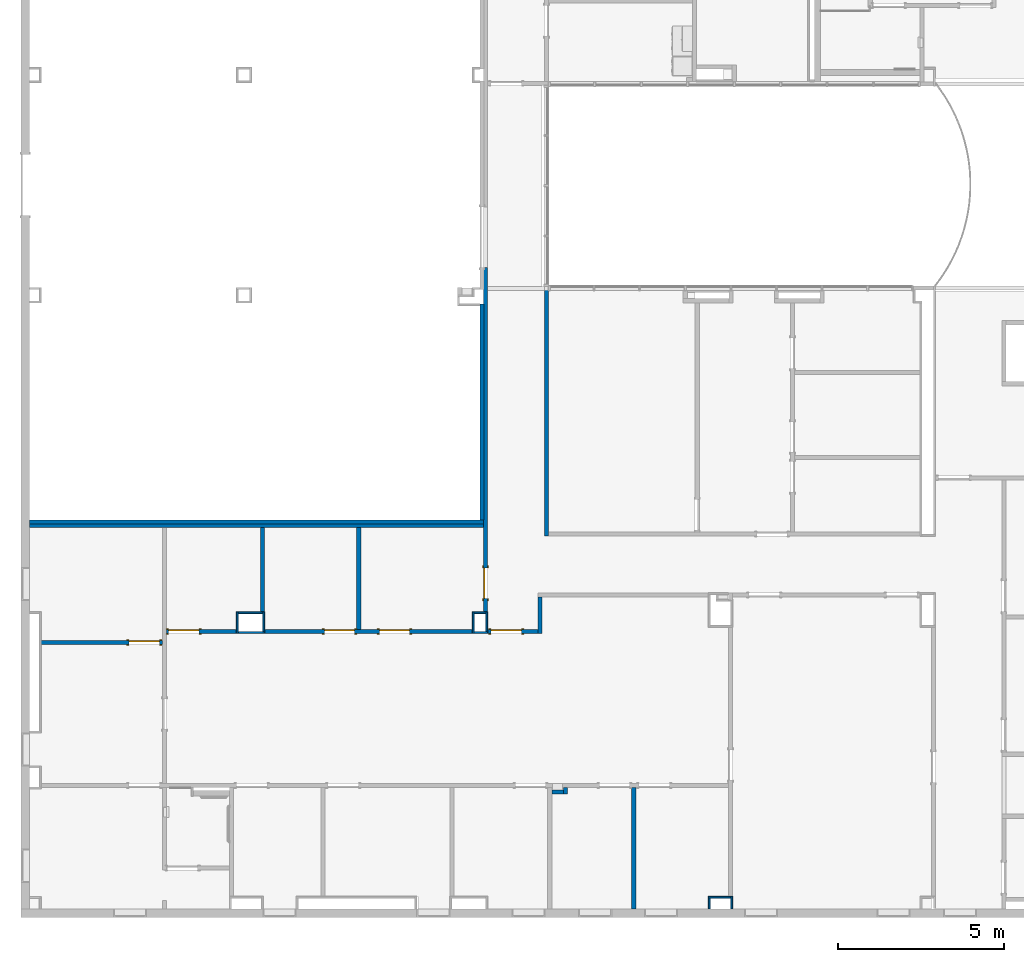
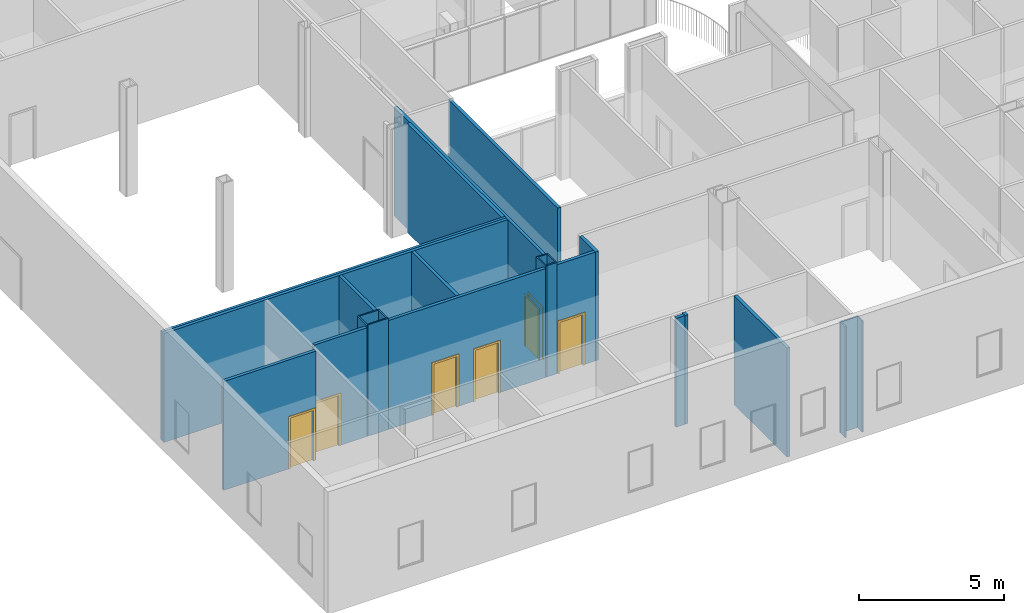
# One storey, part 7 of 47: 26 walls, 6 doors, 6 openings.
"""IFC2X3 building model written with IfcOpenShell, lengths in metres."""

from ifc_helpers import new_model, entity, si_unit, converted_unit, frame, frame_2d, origin, origin_2d_with_axis, place, context, project, spatial, polyline, rectangle, outline, extrude, source, transform, mapped, material, layer, layer_set, layer_usage, type_object, type_shapes, element, fill, save


model = new_model("IFC2X3")

# Units and contexts
model_context = context("Model", 3, precision=1e-09, world=origin())
plan_context = context("Plan", 3, precision=1e-09, world=origin())
ifc_project = project(units=[si_unit("LENGTHUNIT", "METRE"), si_unit("AREAUNIT", "SQUARE_METRE"), si_unit("VOLUMEUNIT", "CUBIC_METRE"), converted_unit("PLANEANGLEUNIT", "DEGREE", entity("IfcRatioMeasure", 0.01745329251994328), si_unit("PLANEANGLEUNIT", "RADIAN"), dimensions=[0, 0, 0, 0, 0, 0, 0]), si_unit("TIMEUNIT", "SECOND")], contexts=[model_context, plan_context])

# Site, building, storey
site_placement = place(None, origin())
site = spatial("IfcSite", under=ifc_project, at=site_placement, Name="Default", CompositionType="ELEMENT")
building_placement = place(site_placement, origin())
building = spatial("IfcBuilding", under=site, at=building_placement, CompositionType="ELEMENT")
storey_placement = place(building_placement, frame((0.0, 0.0, 4.570000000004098)))
storey = spatial("IfcBuildingStorey", under=building, at=storey_placement, Name="Second Floor", CompositionType="ELEMENT", Elevation=4.570000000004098)

# Walls
ifc_material_1 = material(Name="Plasterboard")
ifc_layer_1 = layer(ifc_material_1, 0.016)
ifc_material_2 = material(Name="Metal - Stud Layer")
ifc_layer_2 = layer(ifc_material_2, 0.092)
ifc_layer_3 = layer(ifc_material_1, 0.016)
ifc_layer_set_1 = layer_set([ifc_layer_1, ifc_layer_2, ifc_layer_3], Name="Basic Wall:Interior - Partition (92mm Stud)")
ifc_layer_usage_1 = layer_usage(ifc_layer_set_1, "AXIS2", "NEGATIVE", 0.062)
wall_1_placement = place(storey_placement, frame((-31.38500000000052, 13.44743871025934, 0.0)))
element("IfcWallStandardCase", 1, at=wall_1_placement, inside=storey, material=ifc_layer_usage_1, Name="Basic Wall:Interior - Partition (92mm Stud)", ObjectType="Basic Wall:Interior - Partition (92mm Stud)", context=model_context, shape_type="SweptSolid", body=[
    extrude(rectangle(XDim=0.3500000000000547, YDim=0.1240000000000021, at=frame_2d((0.1750000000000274, 0.0), x_axis=(-1.0, 0.0))), origin(), (0.0, 0.0, 1.0), 4.577999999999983),
])
ifc_layer_usage_2 = layer_usage(ifc_layer_set_1, "AXIS2", "NEGATIVE", 0.062)
wall_2_placement = place(storey_placement, frame((-30.97300000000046, 13.38543871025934, 0.0), z_axis=(0.0, 0.0, 1.0), x_axis=(0.0, 1.0, 0.0)))
element("IfcWallStandardCase", 2, at=wall_2_placement, inside=storey, material=ifc_layer_usage_2, Name="Basic Wall:Interior - Partition (92mm Stud)", ObjectType="Basic Wall:Interior - Partition (92mm Stud)", context=model_context, shape_type="SweptSolid", body=[
    extrude(rectangle(XDim=0.194999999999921, YDim=0.1239999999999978, at=frame_2d((0.09749999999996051, 0.0), x_axis=(-1.0, 0.0))), origin(), (0.0, 0.0, 1.0), 4.577999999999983),
])
ifc_layer_usage_3 = layer_usage(ifc_layer_set_1, "AXIS2", "NEGATIVE", 0.062)
wall_3_placement = place(storey_placement, frame((-28.91700000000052, 13.58043871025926, 0.0), z_axis=(0.0, 0.0, 1.0), x_axis=(0.0, -1.0, 0.0)))
element("IfcWallStandardCase", 3, at=wall_3_placement, inside=storey, material=ifc_layer_usage_3, Name="Basic Wall:Interior - Partition (92mm Stud)", ObjectType="Basic Wall:Interior - Partition (92mm Stud)", context=model_context, shape_type="SweptSolid", body=[
    extrude(rectangle(XDim=3.653438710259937, YDim=0.1239999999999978, at=frame_2d((1.826719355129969, 0.0), x_axis=(-1.0, 0.0))), origin(), (0.0, 0.0, 1.0), 4.577999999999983),
])

# Wall, opening, door
ifc_layer_usage_4 = layer_usage(ifc_layer_set_1, "AXIS2", "NEGATIVE", 0.062)
wall_4_placement = place(storey_placement, frame((-46.77000000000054, 17.95243871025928, 0.0)))
wall_4 = element("IfcWallStandardCase", 4, at=wall_4_placement, inside=storey, material=ifc_layer_usage_4, Name="Basic Wall:Interior - Partition (92mm Stud)", ObjectType="Basic Wall:Interior - Partition (92mm Stud)", context=model_context, shape_type="SweptSolid", body=[
    extrude(rectangle(XDim=3.660000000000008, YDim=0.1240000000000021, at=frame_2d((1.830000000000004, 0.0), x_axis=(-1.0, 0.0))), origin(), (0.0, 0.0, 1.0), 4.577999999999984),
])
opening_1_placement = place(wall_4_placement, frame((2.645000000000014, -0.06200000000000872, 0.0)))
opening_1 = element("IfcOpeningElement", 5, at=opening_1_placement, cuts=wall_4, Name="M_Single-Flush:0915 x 2134mm:0915 x 2134mm:1", ObjectType="Opening", context=model_context, shape_type="SweptSolid", body=[
    extrude(rectangle(XDim=0.9149999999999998, YDim=2.134, at=frame_2d((1.067, 0.4575), x_axis=(0.0, 1.0))), frame((0.0, 0.0, 0.0), z_axis=(0.0, 1.0, 0.0), x_axis=(0.0, 0.0, 1.0)), (0.0, 0.0, 1.0), 0.124),
])
door_style_1 = type_object("IfcDoorStyle", Name="0915 x 2134mm", ConstructionType="NOTDEFINED", OperationType="SINGLE_SWING_RIGHT", ParameterTakesPrecedence=False, Sizeable=False)
shared_shape_1 = source(origin(), model_context, "Body", "SweptSolid", [
    extrude(outline(polyline([(-0.5335, -1.123999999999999), (0.5334999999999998, -1.123999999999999), (0.5334999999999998, 1.086), (0.4574999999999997, 1.086), (0.4574999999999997, -1.048000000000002), (-0.4574999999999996, -1.048000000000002), (-0.4574999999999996, 1.086), (-0.5335, 1.086), (-0.5335, -1.123999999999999)])), frame((0.4575000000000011, 0.1239999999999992, 1.086), z_axis=(0.0, 1.0, 0.0), x_axis=(1.0, 0.0, 0.0)), (0.0, 0.0, 1.0), 0.02499999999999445),
    extrude(outline(polyline([(-1.123999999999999, -0.5334999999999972), (1.085999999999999, -0.5334999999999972), (1.085999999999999, -0.4575000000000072), (-1.048, -0.4575000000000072), (-1.048, 0.4575000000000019), (1.085999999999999, 0.4575000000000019), (1.085999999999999, 0.5335000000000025), (-1.123999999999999, 0.5335000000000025), (-1.123999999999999, -0.5334999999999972)])), frame((0.4575000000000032, -0.02500000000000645, 1.085999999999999), z_axis=(0.0, 1.0, 0.0), x_axis=(0.0, 0.0, -1.0)), (0.0, 0.0, 1.0), 0.02500000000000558),
    extrude(rectangle(XDim=0.051, YDim=0.9149999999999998, at=origin_2d_with_axis()), frame((0.4575000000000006, 0.09849999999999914, 0.0), z_axis=(0.0, 0.0, 1.0), x_axis=(0.0, 1.0, 0.0)), (0.0, 0.0, 1.0), 2.133999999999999),
])
type_shapes(door_style_1, [shared_shape_1])
door_1_placement = place(opening_1_placement, origin())
door_1 = element("IfcDoor", 6, at=door_1_placement, inside=storey, type_object=door_style_1, Name="M_Single-Flush:0915 x 2134mm:0915 x 2134mm", ObjectType="0915 x 2134mm", OverallHeight=2.134, OverallWidth=0.9149999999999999, context=model_context, shape_type="MappedRepresentation", body=[
    mapped(shared_shape_1, transform((0.0, 0.0, 0.0), scale=1.0)),
])
fill(opening_1, door_1)

# Walls
ifc_layer_usage_5 = layer_usage(ifc_layer_set_1, "AXIS2", "NEGATIVE", 0.062)
wall_5_placement = place(storey_placement, frame((-47.11300000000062, 21.58243871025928, 0.0)))
element("IfcWallStandardCase", 7, at=wall_5_placement, inside=storey, material=ifc_layer_usage_5, Name="Basic Wall:Interior - Partition (92mm Stud)", ObjectType="Basic Wall:Interior - Partition (92mm Stud)", context=model_context, shape_type="SweptSolid", body=[
    extrude(rectangle(XDim=13.68700000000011, YDim=0.1239999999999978, at=frame_2d((6.843500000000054, 0.0), x_axis=(-1.0, 0.0))), origin(), (0.0, 0.0, 1.0), 4.577999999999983),
])
ifc_layer_usage_6 = layer_usage(ifc_layer_set_1, "AXIS2", "NEGATIVE", 0.062)
wall_6_placement = place(storey_placement, frame((-33.48800000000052, 21.64443871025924, 0.0), z_axis=(0.0, 0.0, 1.0), x_axis=(0.0, 1.0, 0.0)))
element("IfcWallStandardCase", 8, at=wall_6_placement, inside=storey, material=ifc_layer_usage_6, Name="Basic Wall:Interior - Partition (92mm Stud)", ObjectType="Basic Wall:Interior - Partition (92mm Stud)", context=model_context, shape_type="SweptSolid", body=[
    extrude(rectangle(XDim=6.509000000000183, YDim=0.1239999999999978, at=frame_2d((3.254500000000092, 0.0), x_axis=(-1.0, 0.0))), origin(), (0.0, 0.0, 1.0), 4.577999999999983),
])

# Wall, opening, door
ifc_layer_usage_7 = layer_usage(ifc_layer_set_1, "AXIS2", "NEGATIVE", 0.062)
wall_7_placement = place(storey_placement, frame((-33.3820000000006, 29.24387433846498, 0.0), z_axis=(0.0, 0.0, 1.0), x_axis=(0.0, -1.0, 0.0)))
wall_7 = element("IfcWallStandardCase", 9, at=wall_7_placement, inside=storey, material=ifc_layer_usage_7, Name="Basic Wall:Interior - Partition (92mm Stud)", ObjectType="Basic Wall:Interior - Partition (92mm Stud)", context=model_context, shape_type="SweptSolid", body=[
    extrude(rectangle(XDim=10.36943562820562, YDim=0.1239999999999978, at=frame_2d((5.18471781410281, 0.0), x_axis=(-1.0, 0.0))), origin(), (0.0, 0.0, 1.0), 4.577999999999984),
])
opening_2_placement = place(wall_7_placement, frame((9.969435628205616, 0.06199999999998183, 0.0)))
opening_2 = element("IfcOpeningElement", 10, at=opening_2_placement, cuts=wall_7, Name="M_Single-Flush:0915 x 2134mm:0915 x 2134mm:1", ObjectType="Opening", context=model_context, shape_type="SweptSolid", body=[
    extrude(rectangle(XDim=0.9149999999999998, YDim=2.134, at=frame_2d((1.067, 0.4574999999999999), x_axis=(0.0, -1.0))), frame((0.0, 0.0, 0.0), z_axis=(0.0, -1.0, 0.0), x_axis=(0.0, 0.0, 1.0)), (0.0, 0.0, 1.0), 0.124),
])
door_style_2 = type_object("IfcDoorStyle", Name="0915 x 2134mm", ConstructionType="NOTDEFINED", OperationType="SINGLE_SWING_LEFT", ParameterTakesPrecedence=False, Sizeable=False)
shared_shape_2 = source(origin(), model_context, "Body", "SweptSolid", [
    extrude(outline(polyline([(-0.5335, -1.123999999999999), (0.5334999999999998, -1.123999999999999), (0.5334999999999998, 1.086), (0.4574999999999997, 1.086), (0.4574999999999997, -1.048000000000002), (-0.4574999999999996, -1.048000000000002), (-0.4574999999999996, 1.086), (-0.5335, 1.086), (-0.5335, -1.123999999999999)])), frame((0.4575000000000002, 0.1489999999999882, 1.086), z_axis=(0.0, -1.0, 0.0), x_axis=(-1.0, 0.0, 0.0)), (0.0, 0.0, 1.0), 0.02499999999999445),
    extrude(outline(polyline([(-1.123999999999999, -0.5334999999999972), (1.085999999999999, -0.5334999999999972), (1.085999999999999, -0.4575000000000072), (-1.048, -0.4575000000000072), (-1.048, 0.4575000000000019), (1.085999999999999, 0.4575000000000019), (1.085999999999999, 0.5335000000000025), (-1.123999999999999, 0.5335000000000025), (-1.123999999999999, -0.5334999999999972)])), frame((0.4574999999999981, 0.0, 1.085999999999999), z_axis=(0.0, -1.0, 0.0), x_axis=(0.0, 0.0, -1.0)), (0.0, 0.0, 1.0), 0.02500000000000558),
    extrude(rectangle(XDim=0.9149999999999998, YDim=0.051, at=origin_2d_with_axis()), frame((0.4575000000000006, 0.09849999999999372, 0.0)), (0.0, 0.0, 1.0), 2.133999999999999),
])
type_shapes(door_style_2, [shared_shape_2])
door_2_placement = place(opening_2_placement, frame((0.0, 0.0, 0.0), z_axis=(0.0, 0.0, 1.0), x_axis=(-1.0, 0.0, 0.0)))
door_2 = element("IfcDoor", 11, at=door_2_placement, inside=storey, type_object=door_style_2, Name="M_Single-Flush:0915 x 2134mm:0915 x 2134mm", ObjectType="0915 x 2134mm", OverallHeight=2.134, OverallWidth=0.9149999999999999, context=model_context, shape_type="MappedRepresentation", body=[
    mapped(shared_shape_2, transform((0.0, 0.0, 0.0), scale=1.0)),
])
fill(opening_2, door_2)

# Wall
ifc_layer_usage_8 = layer_usage(ifc_layer_set_1, "AXIS2", "NEGATIVE", 0.062)
wall_8_placement = place(storey_placement, frame((-31.73800000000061, 18.22443871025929, 0.0), z_axis=(0.0, 0.0, 1.0), x_axis=(0.0, 1.0, 0.0)))
element("IfcWallStandardCase", 12, at=wall_8_placement, inside=storey, material=ifc_layer_usage_8, Name="Basic Wall:Interior - Partition (92mm Stud)", ObjectType="Basic Wall:Interior - Partition (92mm Stud)", context=model_context, shape_type="SweptSolid", body=[
    extrude(rectangle(XDim=1.09600000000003, YDim=0.1239999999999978, at=frame_2d((0.5480000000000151, 0.0), x_axis=(-1.0, 0.0))), origin(), (0.0, 0.0, 1.0), 4.577999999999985),
])

# Wall, opening, door
ifc_layer_usage_9 = layer_usage(ifc_layer_set_1, "AXIS2", "NEGATIVE", 0.062)
wall_9_placement = place(storey_placement, frame((-31.80000000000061, 18.28643871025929, 0.0), z_axis=(0.0, 0.0, 1.0), x_axis=(-1.0, 0.0, 0.0)))
wall_9 = element("IfcWallStandardCase", 13, at=wall_9_placement, inside=storey, material=ifc_layer_usage_9, Name="Basic Wall:Interior - Partition (92mm Stud)", ObjectType="Basic Wall:Interior - Partition (92mm Stud)", context=model_context, shape_type="SweptSolid", body=[
    extrude(rectangle(XDim=1.520000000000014, YDim=0.1240000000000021, at=frame_2d((0.760000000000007, 0.0), x_axis=(-1.0, 0.0))), origin(), (0.0, 0.0, 1.0), 4.577999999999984),
])
opening_3_placement = place(wall_9_placement, frame((1.42000000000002, 0.06199999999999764, 0.0)))
opening_3 = element("IfcOpeningElement", 14, at=opening_3_placement, cuts=wall_9, Name="M_Single-Flush:0915 x 2134mm:0915 x 2134mm:1", ObjectType="Opening", context=model_context, shape_type="SweptSolid", body=[
    extrude(rectangle(XDim=0.9149999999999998, YDim=2.134, at=frame_2d((1.067, 0.4575000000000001), x_axis=(0.0, -1.0))), frame((0.0, 0.0, 0.0), z_axis=(0.0, -1.0, 0.0), x_axis=(0.0, 0.0, 1.0)), (0.0, 0.0, 1.0), 0.124),
])
door_3_placement = place(opening_3_placement, frame((0.0, 0.0, 0.0), z_axis=(0.0, 0.0, 1.0), x_axis=(-1.0, 0.0, 0.0)))
door_3 = element("IfcDoor", 15, at=door_3_placement, inside=storey, type_object=door_style_2, Name="M_Single-Flush:0915 x 2134mm:0915 x 2134mm", ObjectType="0915 x 2134mm", OverallHeight=2.134, OverallWidth=0.9149999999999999, context=model_context, shape_type="MappedRepresentation", body=[
    mapped(shared_shape_2, transform((0.0, 0.0, 0.0), scale=1.0)),
])
fill(opening_3, door_3)

# Walls
ifc_layer_usage_10 = layer_usage(ifc_layer_set_1, "AXIS2", "NEGATIVE", 0.062)
wall_10_placement = place(storey_placement, frame((-33.44400000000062, 21.47643871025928, 0.0), z_axis=(0.0, 0.0, 1.0), x_axis=(-1.0, 0.0, 0.0)))
element("IfcWallStandardCase", 16, at=wall_10_placement, inside=storey, material=ifc_layer_usage_10, Name="Basic Wall:Interior - Partition (92mm Stud)", ObjectType="Basic Wall:Interior - Partition (92mm Stud)", context=model_context, shape_type="SweptSolid", body=[
    extrude(rectangle(XDim=13.669, YDim=0.1239999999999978, at=frame_2d((6.834500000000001, 0.0), x_axis=(-1.0, 0.0))), origin(), (0.0, 0.0, 1.0), 4.577999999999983),
])
ifc_layer_usage_11 = layer_usage(ifc_layer_set_1, "AXIS2", "NEGATIVE", 0.062)
wall_11_placement = place(storey_placement, frame((-40.09700000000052, 21.4144387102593, 0.0), z_axis=(0.0, 0.0, 1.0), x_axis=(0.0, -1.0, 0.0)))
element("IfcWallStandardCase", 17, at=wall_11_placement, inside=storey, material=ifc_layer_usage_11, Name="Basic Wall:Interior - Partition (92mm Stud)", ObjectType="Basic Wall:Interior - Partition (92mm Stud)", context=model_context, shape_type="SweptSolid", body=[
    extrude(rectangle(XDim=2.539999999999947, YDim=0.1240000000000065, at=frame_2d((1.269999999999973, 0.0), x_axis=(-1.0, 0.0))), origin(), (0.0, 0.0, 1.0), 4.577999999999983),
])
ifc_layer_usage_12 = layer_usage(ifc_layer_set_1, "AXIS2", "NEGATIVE", 0.062)
wall_12_placement = place(storey_placement, frame((-37.20200000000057, 21.41443871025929, 0.0), z_axis=(0.0, 0.0, 1.0), x_axis=(0.0, -1.0, 0.0)))
element("IfcWallStandardCase", 18, at=wall_12_placement, inside=storey, material=ifc_layer_usage_12, Name="Basic Wall:Interior - Partition (92mm Stud)", ObjectType="Basic Wall:Interior - Partition (92mm Stud)", context=model_context, shape_type="SweptSolid", body=[
    extrude(rectangle(XDim=3.065999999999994, YDim=0.1239999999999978, at=frame_2d((1.532999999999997, 0.0), x_axis=(-1.0, 0.0))), origin(), (0.0, 0.0, 1.0), 4.577999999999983),
])
ifc_layer_usage_13 = layer_usage(ifc_layer_set_1, "AXIS2", "NEGATIVE", 0.062)
wall_13_placement = place(storey_placement, frame((-31.54800000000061, 28.69019840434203, 0.0), z_axis=(0.0, 0.0, 1.0), x_axis=(0.0, -1.0, 0.0)))
element("IfcWallStandardCase", 19, at=wall_13_placement, inside=storey, material=ifc_layer_usage_13, Name="Basic Wall:Interior - Partition (92mm Stud)", ObjectType="Basic Wall:Interior - Partition (92mm Stud)", context=model_context, shape_type="SweptSolid", body=[
    extrude(rectangle(XDim=7.53575969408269, YDim=0.1240000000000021, at=frame_2d((3.767879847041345, 0.0), x_axis=(-1.0, 0.0))), origin(), (0.0, 0.0, 1.0), 4.577999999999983),
])
ifc_layer_4 = layer(ifc_material_2, 0.038)
ifc_layer_5 = layer(ifc_material_1, 0.016)
ifc_layer_set_2 = layer_set([ifc_layer_4, ifc_layer_5], Name="Basic Wall:Interior - Furring (38 mm Stud)")
ifc_layer_usage_14 = layer_usage(ifc_layer_set_2, "AXIS2", "NEGATIVE", 0.027)
wall_14_placement = place(storey_placement, frame((-25.96700000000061, 9.926999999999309, 0.0), z_axis=(0.0, 0.0, 1.0), x_axis=(0.0, 1.0, 0.0)))
element("IfcWallStandardCase", 20, at=wall_14_placement, inside=storey, material=ifc_layer_usage_14, Name="Basic Wall:Interior - Furring (38 mm Stud)", ObjectType="Basic Wall:Interior - Furring (38 mm Stud)", context=model_context, shape_type="SweptSolid", body=[
    extrude(rectangle(XDim=0.3800000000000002, YDim=0.05399999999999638, at=frame_2d((0.1900000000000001, 0.0), x_axis=(-1.0, 0.0))), origin(), (0.0, 0.0, 1.0), 4.679999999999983),
])
ifc_layer_usage_15 = layer_usage(ifc_layer_set_2, "AXIS2", "NEGATIVE", 0.027)
wall_15_placement = place(storey_placement, frame((-25.99400000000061, 10.27999999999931, 0.0), z_axis=(0.0, 0.0, 1.0), x_axis=(-1.0, 0.0, 0.0)))
element("IfcWallStandardCase", 21, at=wall_15_placement, inside=storey, material=ifc_layer_usage_15, Name="Basic Wall:Interior - Furring (38 mm Stud)", ObjectType="Basic Wall:Interior - Furring (38 mm Stud)", context=model_context, shape_type="SweptSolid", body=[
    extrude(rectangle(XDim=0.6759999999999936, YDim=0.05400000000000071, at=frame_2d((0.3379999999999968, 0.0), x_axis=(-1.0, 0.0))), origin(), (0.0, 0.0, 1.0), 4.679999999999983),
])
ifc_layer_usage_16 = layer_usage(ifc_layer_set_2, "AXIS2", "NEGATIVE", 0.027)
wall_16_placement = place(storey_placement, frame((-26.6430000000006, 10.25299999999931, 0.0), z_axis=(0.0, 0.0, 1.0), x_axis=(0.0, -1.0, 0.0)))
element("IfcWallStandardCase", 22, at=wall_16_placement, inside=storey, material=ifc_layer_usage_16, Name="Basic Wall:Interior - Furring (38 mm Stud)", ObjectType="Basic Wall:Interior - Furring (38 mm Stud)", context=model_context, shape_type="SweptSolid", body=[
    extrude(rectangle(XDim=0.3259999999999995, YDim=0.05399999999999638, at=frame_2d((0.1629999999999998, 0.0), x_axis=(-1.0, 0.0))), origin(), (0.0, 0.0, 1.0), 4.679999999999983),
])

# Wall, opening, door
ifc_layer_usage_17 = layer_usage(ifc_layer_set_1, "AXIS2", "NEGATIVE", 0.062)
wall_17_placement = place(storey_placement, frame((-40.8900000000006, 18.28643871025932, 0.0), z_axis=(0.0, 0.0, 1.0), x_axis=(-1.0, 0.0, 0.0)))
wall_17 = element("IfcWallStandardCase", 23, at=wall_17_placement, inside=storey, material=ifc_layer_usage_17, Name="Basic Wall:Interior - Partition (92mm Stud)", ObjectType="Basic Wall:Interior - Partition (92mm Stud)", context=model_context, shape_type="SweptSolid", body=[
    extrude(rectangle(XDim=2.095999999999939, YDim=0.1240000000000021, at=frame_2d((1.04799999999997, 0.0), x_axis=(-1.0, 0.0))), origin(), (0.0, 0.0, 1.0), 4.577999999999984),
])
opening_4_placement = place(wall_17_placement, frame((2.035999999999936, 0.06199999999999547, 0.0)))
opening_4 = element("IfcOpeningElement", 24, at=opening_4_placement, cuts=wall_17, Name=":1", ObjectType="Opening", context=model_context, shape_type="SweptSolid", body=[
    extrude(rectangle(XDim=0.9149999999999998, YDim=2.134, at=frame_2d((1.067, 0.4575000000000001), x_axis=(0.0, -1.0))), frame((0.0, 0.0, 0.0), z_axis=(0.0, -1.0, 0.0), x_axis=(0.0, 0.0, 1.0)), (0.0, 0.0, 1.0), 0.124),
])
door_4_placement = place(opening_4_placement, frame((0.0, 0.0, 0.0), z_axis=(0.0, 0.0, 1.0), x_axis=(-1.0, 0.0, 0.0)))
door_4 = element("IfcDoor", 25, at=door_4_placement, inside=storey, type_object=door_style_2, Name="M_Single-Flush:0915 x 2134mm:0915 x 2134mm", ObjectType="0915 x 2134mm", OverallHeight=2.134, OverallWidth=0.9149999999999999, context=model_context, shape_type="MappedRepresentation", body=[
    mapped(shared_shape_2, transform((0.0, 0.0, 0.0), scale=1.0)),
])
fill(opening_4, door_4)

# Walls
ifc_layer_usage_18 = layer_usage(ifc_layer_set_2, "AXIS2", "NEGATIVE", 0.027)
wall_18_placement = place(storey_placement, frame((-40.8630000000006, 18.87443871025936, 0.0), z_axis=(0.0, 0.0, 1.0), x_axis=(0.0, -1.0, 0.0)))
element("IfcWallStandardCase", 26, at=wall_18_placement, inside=storey, material=ifc_layer_usage_18, Name="Basic Wall:Interior - Furring (38 mm Stud)", ObjectType="Basic Wall:Interior - Furring (38 mm Stud)", context=model_context, shape_type="SweptSolid", body=[
    extrude(rectangle(XDim=0.6500000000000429, YDim=0.05400000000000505, at=frame_2d((0.3250000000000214, 0.0), x_axis=(-1.0, 0.0))), origin(), (0.0, 0.0, 1.0), 4.679999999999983),
])
ifc_layer_usage_19 = layer_usage(ifc_layer_set_2, "AXIS2", "NEGATIVE", 0.027)
wall_19_placement = place(storey_placement, frame((-40.8360000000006, 18.25143871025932, 0.0)))
element("IfcWallStandardCase", 27, at=wall_19_placement, inside=storey, material=ifc_layer_usage_19, Name="Basic Wall:Interior - Furring (38 mm Stud)", ObjectType="Basic Wall:Interior - Furring (38 mm Stud)", context=model_context, shape_type="SweptSolid", body=[
    extrude(rectangle(XDim=0.8010000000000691, YDim=0.05400000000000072, at=frame_2d((0.4005000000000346, 0.0), x_axis=(-1.0, 0.0))), origin(), (0.0, 0.0, 1.0), 4.679999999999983),
])
ifc_layer_usage_20 = layer_usage(ifc_layer_set_2, "AXIS2", "NEGATIVE", 0.027)
wall_20_placement = place(storey_placement, frame((-40.06200000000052, 18.27843871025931, 0.0), z_axis=(0.0, 0.0, 1.0), x_axis=(0.0, 1.0, 0.0)))
element("IfcWallStandardCase", 28, at=wall_20_placement, inside=storey, material=ifc_layer_usage_20, Name="Basic Wall:Interior - Furring (38 mm Stud)", ObjectType="Basic Wall:Interior - Furring (38 mm Stud)", context=model_context, shape_type="SweptSolid", body=[
    extrude(rectangle(XDim=0.5960000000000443, YDim=0.05400000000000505, at=frame_2d((0.2980000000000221, 0.0), x_axis=(-1.0, 0.0))), origin(), (0.0, 0.0, 1.0), 4.679999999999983),
])
ifc_layer_usage_21 = layer_usage(ifc_layer_set_2, "AXIS2", "NEGATIVE", 0.027)
wall_21_placement = place(storey_placement, frame((-40.08900000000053, 18.84743871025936, 0.0), z_axis=(0.0, 0.0, 1.0), x_axis=(-1.0, 0.0, 0.0)))
element("IfcWallStandardCase", 29, at=wall_21_placement, inside=storey, material=ifc_layer_usage_21, Name="Basic Wall:Interior - Furring (38 mm Stud)", ObjectType="Basic Wall:Interior - Furring (38 mm Stud)", context=model_context, shape_type="SweptSolid", body=[
    extrude(rectangle(XDim=0.7470000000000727, YDim=0.05400000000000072, at=frame_2d((0.3735000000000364, 0.0), x_axis=(-1.0, 0.0))), origin(), (0.0, 0.0, 1.0), 4.679999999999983),
])

# Wall, openings, doors
ifc_layer_usage_22 = layer_usage(ifc_layer_set_1, "AXIS2", "NEGATIVE", 0.062)
wall_22_placement = place(storey_placement, frame((-33.78000000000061, 18.28643871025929, 0.0), z_axis=(0.0, 0.0, 1.0), x_axis=(-1.0, 0.0, 0.0)))
wall_22 = element("IfcWallStandardCase", 30, at=wall_22_placement, inside=storey, material=ifc_layer_usage_22, Name="Basic Wall:Interior - Partition (92mm Stud)", ObjectType="Basic Wall:Interior - Partition (92mm Stud)", context=model_context, shape_type="SweptSolid", body=[
    extrude(rectangle(XDim=6.254999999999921, YDim=0.1240000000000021, at=frame_2d((3.12749999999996, 0.0), x_axis=(-1.0, 0.0))), origin(), (0.0, 0.0, 1.0), 4.577999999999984),
])
opening_5_placement = place(wall_22_placement, frame((4.458999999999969, 0.06199999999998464, 0.0)))
opening_5 = element("IfcOpeningElement", 31, at=opening_5_placement, cuts=wall_22, Name=":1", ObjectType="Opening", context=model_context, shape_type="SweptSolid", body=[
    extrude(rectangle(XDim=0.9149999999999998, YDim=2.134, at=frame_2d((1.067, 0.4575), x_axis=(0.0, 1.0))), frame((0.0, 0.0, 0.0), z_axis=(0.0, -1.0, 0.0), x_axis=(0.0, 0.0, 1.0)), (0.0, 0.0, 1.0), 0.124),
])
opening_6_placement = place(wall_22_placement, frame((2.799999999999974, 0.06199999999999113, 0.0)))
opening_6 = element("IfcOpeningElement", 32, at=opening_6_placement, cuts=wall_22, Name=":1", ObjectType="Opening", context=model_context, shape_type="SweptSolid", body=[
    extrude(rectangle(XDim=0.9149999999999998, YDim=2.134, at=frame_2d((1.067, 0.4574999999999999), x_axis=(0.0, -1.0))), frame((0.0, 0.0, 0.0), z_axis=(0.0, -1.0, 0.0), x_axis=(0.0, 0.0, 1.0)), (0.0, 0.0, 1.0), 0.124),
])
door_5_placement = place(opening_5_placement, frame((0.0, 0.0, 0.0), z_axis=(0.0, 0.0, 1.0), x_axis=(-1.0, 0.0, 0.0)))
door_5 = element("IfcDoor", 33, at=door_5_placement, inside=storey, type_object=door_style_1, Name="M_Single-Flush:0915 x 2134mm:0915 x 2134mm", ObjectType="0915 x 2134mm", OverallHeight=2.134, OverallWidth=0.9149999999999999, context=model_context, shape_type="MappedRepresentation", body=[
    mapped(shared_shape_1, transform((0.0, 0.0, 0.0), scale=1.0)),
])
fill(opening_5, door_5)
door_6_placement = place(opening_6_placement, frame((0.0, 0.0, 0.0), z_axis=(0.0, 0.0, 1.0), x_axis=(-1.0, 0.0, 0.0)))
door_6 = element("IfcDoor", 34, at=door_6_placement, inside=storey, type_object=door_style_2, Name="M_Single-Flush:0915 x 2134mm:0915 x 2134mm", ObjectType="0915 x 2134mm", OverallHeight=2.134, OverallWidth=0.9149999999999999, context=model_context, shape_type="MappedRepresentation", body=[
    mapped(shared_shape_2, transform((0.0, 0.0, 0.0), scale=1.0)),
])
fill(opening_6, door_6)

# Walls
ifc_layer_usage_23 = layer_usage(ifc_layer_set_2, "AXIS2", "NEGATIVE", 0.027)
wall_23_placement = place(storey_placement, frame((-33.75300000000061, 18.87443871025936, 0.0), z_axis=(0.0, 0.0, 1.0), x_axis=(0.0, -1.0, 0.0)))
element("IfcWallStandardCase", 35, at=wall_23_placement, inside=storey, material=ifc_layer_usage_23, Name="Basic Wall:Interior - Furring (38 mm Stud)", ObjectType="Basic Wall:Interior - Furring (38 mm Stud)", context=model_context, shape_type="SweptSolid", body=[
    extrude(rectangle(XDim=0.6500000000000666, YDim=0.05399999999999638, at=frame_2d((0.3250000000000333, 0.0), x_axis=(-1.0, 0.0))), origin(), (0.0, 0.0, 1.0), 4.679999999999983),
])
ifc_layer_usage_24 = layer_usage(ifc_layer_set_2, "AXIS2", "NEGATIVE", 0.027)
wall_24_placement = place(storey_placement, frame((-33.72600000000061, 18.25143871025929, 0.0)))
element("IfcWallStandardCase", 36, at=wall_24_placement, inside=storey, material=ifc_layer_usage_24, Name="Basic Wall:Interior - Furring (38 mm Stud)", ObjectType="Basic Wall:Interior - Furring (38 mm Stud)", context=model_context, shape_type="SweptSolid", body=[
    extrude(rectangle(XDim=0.40599999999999, YDim=0.05400000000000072, at=frame_2d((0.202999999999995, 0.0), x_axis=(-1.0, 0.0))), origin(), (0.0, 0.0, 1.0), 4.679999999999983),
])
ifc_layer_usage_25 = layer_usage(ifc_layer_set_2, "AXIS2", "NEGATIVE", 0.027)
wall_25_placement = place(storey_placement, frame((-33.34700000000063, 18.27843871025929, 0.0), z_axis=(0.0, 0.0, 1.0), x_axis=(0.0, 1.0, 0.0)))
element("IfcWallStandardCase", 37, at=wall_25_placement, inside=storey, material=ifc_layer_usage_25, Name="Basic Wall:Interior - Furring (38 mm Stud)", ObjectType="Basic Wall:Interior - Furring (38 mm Stud)", context=model_context, shape_type="SweptSolid", body=[
    extrude(rectangle(XDim=0.5960000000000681, YDim=0.05399999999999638, at=frame_2d((0.2980000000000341, 0.0), x_axis=(-1.0, 0.0))), origin(), (0.0, 0.0, 1.0), 4.679999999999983),
])
ifc_layer_usage_26 = layer_usage(ifc_layer_set_2, "AXIS2", "NEGATIVE", 0.027)
wall_26_placement = place(storey_placement, frame((-33.37400000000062, 18.84743871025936, 0.0), z_axis=(0.0, 0.0, 1.0), x_axis=(-1.0, 0.0, 0.0)))
element("IfcWallStandardCase", 38, at=wall_26_placement, inside=storey, material=ifc_layer_usage_26, Name="Basic Wall:Interior - Furring (38 mm Stud)", ObjectType="Basic Wall:Interior - Furring (38 mm Stud)", context=model_context, shape_type="SweptSolid", body=[
    extrude(rectangle(XDim=0.3519999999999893, YDim=0.05400000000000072, at=frame_2d((0.1759999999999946, 0.0), x_axis=(-1.0, 0.0))), origin(), (0.0, 0.0, 1.0), 4.679999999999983),
])

save(model, "model.ifc")
